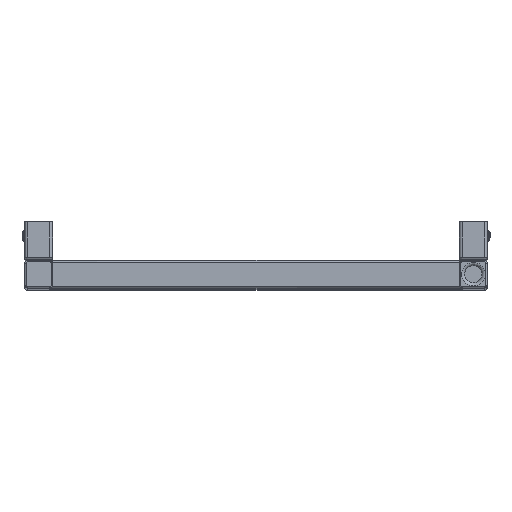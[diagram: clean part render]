
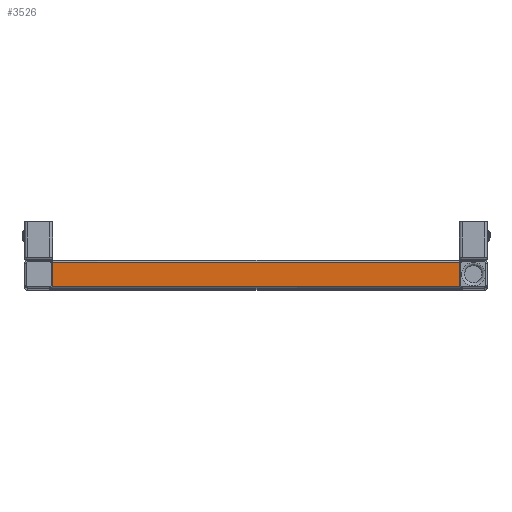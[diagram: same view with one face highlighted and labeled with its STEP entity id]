
A CAD part, top view. The second image highlights one B-rep face of the part: STEP entity #3526.
In plain terms, the highlighted planar face has unit normal (0, 0, 1).
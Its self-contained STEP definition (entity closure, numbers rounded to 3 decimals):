
#3451=CARTESIAN_POINT('',(0.0,-13.,1395.0));
#3452=DIRECTION('',(0.0,0.0,1.0));
#3453=DIRECTION('',(1.0,0.0,0.0));
#3454=AXIS2_PLACEMENT_3D('',#3451,#3452,#3453);
#3455=PLANE('',#3454);
#3456=CARTESIAN_POINT('',(220.172,13.,1395.0));
#3457=VERTEX_POINT('',#3456);
#3458=CARTESIAN_POINT('',(220.,12.,1395.0));
#3459=VERTEX_POINT('',#3458);
#3460=CARTESIAN_POINT('',(223.,12.,1395.0));
#3461=DIRECTION('',(0.0,0.0,1.0));
#3462=DIRECTION('',(0.0,1.0,0.0));
#3463=AXIS2_PLACEMENT_3D('',#3460,#3461,#3462);
#3464=CIRCLE('',#3463,3.);
#3465=EDGE_CURVE('',#3457,#3459,#3464,.T.);
#3466=ORIENTED_EDGE('',*,*,#3465,.F.);
#3467=CARTESIAN_POINT('',(-220.172,13.,1395.0));
#3468=VERTEX_POINT('',#3467);
#3469=CARTESIAN_POINT('',(220.172,13.,1395.0));
#3470=DIRECTION('',(-1.0,0.0,0.0));
#3471=VECTOR('',#3470,440.343);
#3472=LINE('',#3469,#3471);
#3473=EDGE_CURVE('',#3457,#3468,#3472,.T.);
#3474=ORIENTED_EDGE('',*,*,#3473,.T.);
#3475=CARTESIAN_POINT('',(-220.,12.,1395.0));
#3476=VERTEX_POINT('',#3475);
#3477=CARTESIAN_POINT('',(-223.,12.,1395.0));
#3478=DIRECTION('',(0.0,0.0,1.0));
#3479=DIRECTION('',(1.0,0.0,0.0));
#3480=AXIS2_PLACEMENT_3D('',#3477,#3478,#3479);
#3481=CIRCLE('',#3480,3.);
#3482=EDGE_CURVE('',#3476,#3468,#3481,.T.);
#3483=ORIENTED_EDGE('',*,*,#3482,.F.);
#3484=CARTESIAN_POINT('',(-220.,-12.,1395.0));
#3485=VERTEX_POINT('',#3484);
#3486=CARTESIAN_POINT('',(-220.,-12.,1395.0));
#3487=DIRECTION('',(0.0,1.0,0.0));
#3488=VECTOR('',#3487,24.);
#3489=LINE('',#3486,#3488);
#3490=EDGE_CURVE('',#3485,#3476,#3489,.T.);
#3491=ORIENTED_EDGE('',*,*,#3490,.F.);
#3492=CARTESIAN_POINT('',(-220.172,-13.,1395.0));
#3493=VERTEX_POINT('',#3492);
#3494=CARTESIAN_POINT('',(-223.,-12.,1395.0));
#3495=DIRECTION('',(0.0,0.0,1.0));
#3496=DIRECTION('',(0.0,-1.0,0.0));
#3497=AXIS2_PLACEMENT_3D('',#3494,#3495,#3496);
#3498=CIRCLE('',#3497,3.0);
#3499=EDGE_CURVE('',#3493,#3485,#3498,.T.);
#3500=ORIENTED_EDGE('',*,*,#3499,.F.);
#3501=CARTESIAN_POINT('',(220.172,-13.,1395.0));
#3502=VERTEX_POINT('',#3501);
#3503=CARTESIAN_POINT('',(220.172,-13.,1395.0));
#3504=DIRECTION('',(-1.0,0.0,0.0));
#3505=VECTOR('',#3504,440.343);
#3506=LINE('',#3503,#3505);
#3507=EDGE_CURVE('',#3502,#3493,#3506,.T.);
#3508=ORIENTED_EDGE('',*,*,#3507,.F.);
#3509=CARTESIAN_POINT('',(220.,-12.,1395.0));
#3510=VERTEX_POINT('',#3509);
#3511=CARTESIAN_POINT('',(223.,-12.,1395.0));
#3512=DIRECTION('',(0.0,0.0,1.0));
#3513=DIRECTION('',(-1.0,0.0,0.0));
#3514=AXIS2_PLACEMENT_3D('',#3511,#3512,#3513);
#3515=CIRCLE('',#3514,3.0);
#3516=EDGE_CURVE('',#3510,#3502,#3515,.T.);
#3517=ORIENTED_EDGE('',*,*,#3516,.F.);
#3518=CARTESIAN_POINT('',(220.,12.,1395.0));
#3519=DIRECTION('',(0.0,-1.0,0.0));
#3520=VECTOR('',#3519,24.);
#3521=LINE('',#3518,#3520);
#3522=EDGE_CURVE('',#3459,#3510,#3521,.T.);
#3523=ORIENTED_EDGE('',*,*,#3522,.F.);
#3524=EDGE_LOOP('',(#3466,#3474,#3483,#3491,#3500,#3508,#3517,#3523));
#3525=FACE_OUTER_BOUND('',#3524,.T.);
#3526=ADVANCED_FACE('',(#3525),#3455,.T.);
